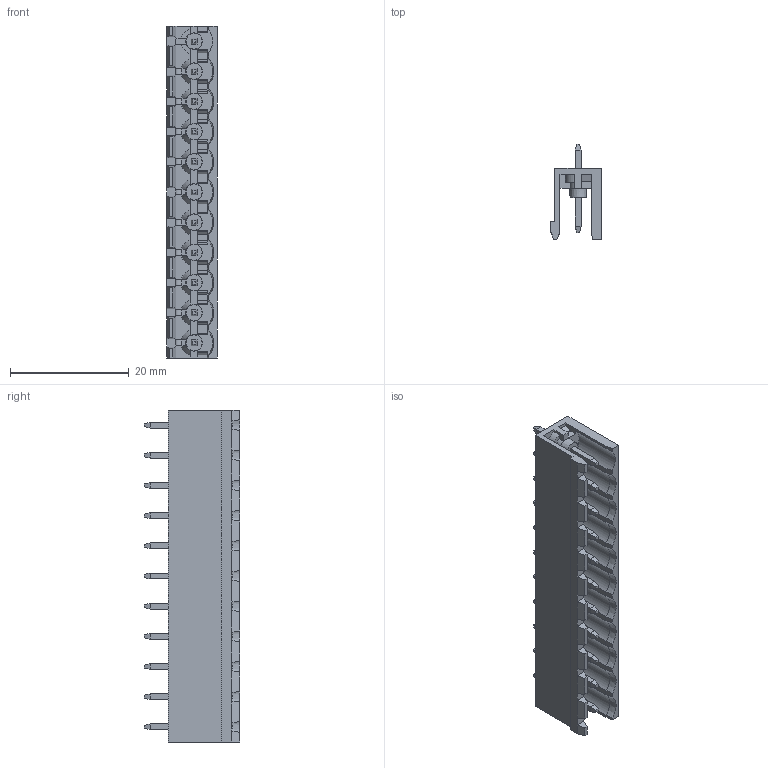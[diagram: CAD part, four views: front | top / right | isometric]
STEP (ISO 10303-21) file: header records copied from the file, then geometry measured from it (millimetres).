
FILE_DESCRIPTION (( 'STEP AP203' ), '1' );
FILE_NAME ('BR8MC1-11.STEP', '2020-03-18T03:00:02', ( '' ), ( '' ), 'SwSTEP 2.0', 'SolidWorks 2019', '' );
FILE_SCHEMA (( 'CONFIG_CONTROL_DESIGN' ));
Length unit declared in the file: millimetre
Products named in the file (1): BR8MC1-11
Bounding box: 8.5 x 16.03 x 55.88 mm (x, y, z)
Volume: 2117.8 mm3; surface area: 4714.3 mm2
Topology: 1 solids, 1 shells, 932 faces, 2430 edges, 1500 vertices
Faces by surface type: plane 802, cylinder 56, cone 52, sphere 22
Entity records: 27728 total; most frequent: CARTESIAN_POINT 5279, ORIENTED_EDGE 4772, DIRECTION 4369, EDGE_CURVE 2386, LINE 2041, VECTOR 2041, VERTEX_POINT 1478, AXIS2_PLACEMENT_3D 1164
